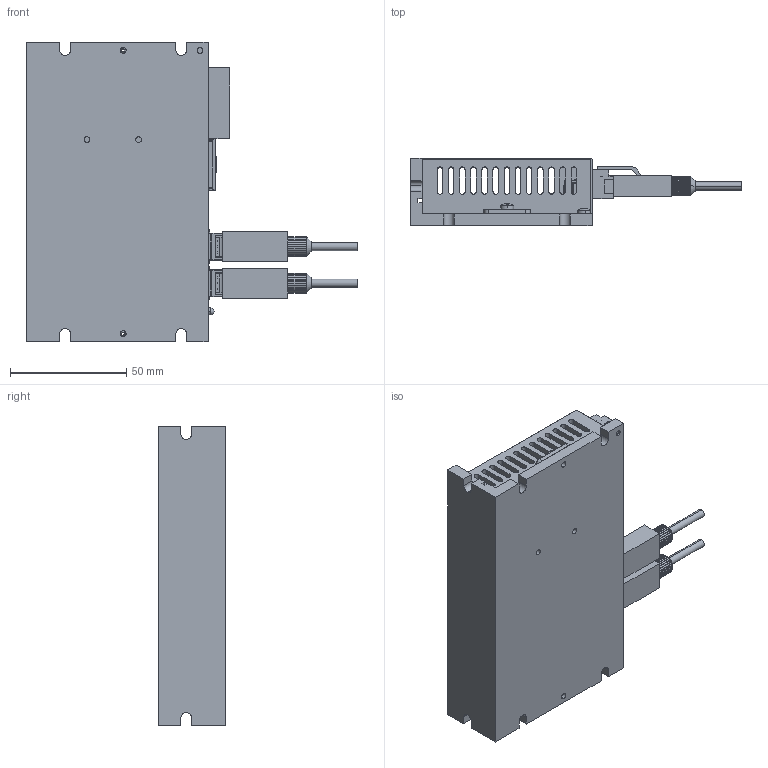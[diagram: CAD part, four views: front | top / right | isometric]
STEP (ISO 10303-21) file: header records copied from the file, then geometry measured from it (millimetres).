
FILE_DESCRIPTION (( 'STEP AP214' ), '1' );
FILE_NAME ('STF-R 陔淕磁0927.STEP', '2017-09-27T06:29:45', ( '' ), ( '' ), 'SwSTEP 2.0', 'SolidWorks 2015', '' );
FILE_SCHEMA (( 'AUTOMOTIVE_DESIGN' ));
Length unit declared in the file: millimetre
Products named in the file (1): STF-R 陔淕磁0927
Bounding box: 142.5 x 29 x 129 mm (x, y, z)
Surface area: 71871.2 mm2 (no closed solid volume)
Topology: 0 solids, 40 shells, 1148 faces, 5678 edges, 4484 vertices
Faces by surface type: plane 797, cylinder 233, bspline 98, cone 12, sphere 8
Entity records: 75710 total; most frequent: CARTESIAN_POINT 21189, ORIENTED_EDGE 8103, DIRECTION 7341, EDGE_CURVE 5674, VERTEX_POINT 4484, LINE 3553, VECTOR 3553, AXIS2_PLACEMENT_3D 1894
